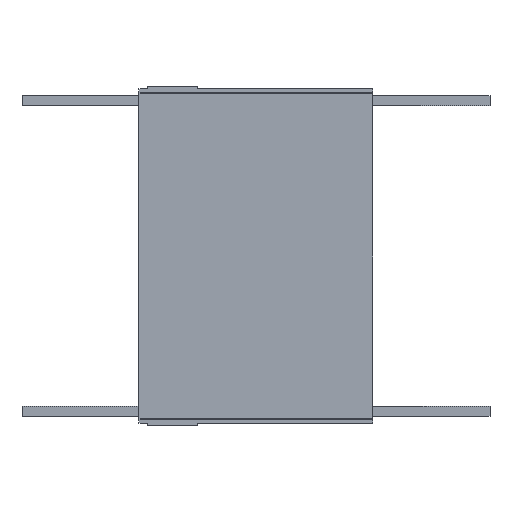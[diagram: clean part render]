
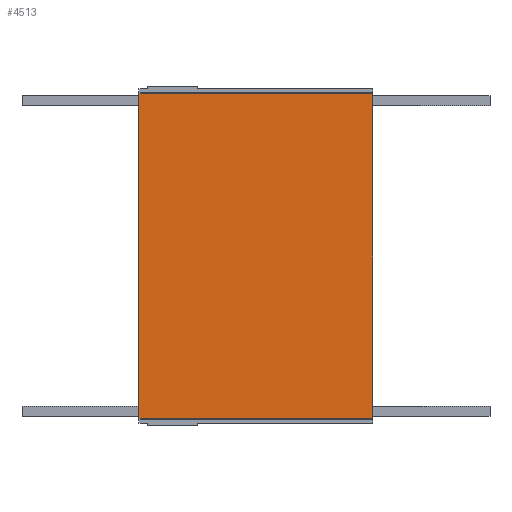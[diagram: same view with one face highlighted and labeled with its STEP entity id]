
A CAD part, front view. The second image highlights one B-rep face of the part: STEP entity #4513.
In plain terms, the highlighted planar face has unit normal (0, -1, 0).
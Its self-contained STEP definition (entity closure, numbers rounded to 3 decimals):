
#29 = EDGE_CURVE ( 'NONE', #573, #217, #4093, .T. ) ;
#217 = VERTEX_POINT ( 'NONE', #4082 ) ;
#454 = EDGE_CURVE ( 'Edge12', #3383, #573, #2351, .T. ) ;
#573 = VERTEX_POINT ( 'NONE', #4626 ) ;
#641 = LINE ( 'NONE', #2774, #4326 ) ;
#968 = ORIENTED_EDGE ( 'NONE', *, *, #454, .F. ) ;
#1075 = CARTESIAN_POINT ( 'NONE',  ( 70., -42., -97. ) ) ;
#1084 = EDGE_CURVE ( 'NONE', #2440, #217, #641, .T. ) ;
#1089 = DIRECTION ( 'NONE',  ( 0., 1., 0. ) ) ;
#1129 = CARTESIAN_POINT ( 'NONE',  ( -70., -42., 97. ) ) ;
#1164 = DIRECTION ( 'NONE',  ( 0., 0., -1. ) ) ;
#1675 = ORIENTED_EDGE ( 'NONE', *, *, #4872, .T. ) ;
#2120 = CARTESIAN_POINT ( 'NONE',  ( 70., -42., 97. ) ) ;
#2153 = LINE ( 'NONE', #3720, #2678 ) ;
#2351 = LINE ( 'NONE', #3439, #4453 ) ;
#2405 = DIRECTION ( 'NONE',  ( 0., 0., -1. ) ) ;
#2440 = VERTEX_POINT ( 'NONE', #1129 ) ;
#2678 = VECTOR ( 'NONE', #4670, 1000. ) ;
#2774 = CARTESIAN_POINT ( 'NONE',  ( -70., -42., -97. ) ) ;
#2804 = ORIENTED_EDGE ( 'NONE', *, *, #1084, .T. ) ;
#3138 = CARTESIAN_POINT ( 'NONE',  ( 70., -42., -97. ) ) ;
#3383 = VERTEX_POINT ( 'NONE', #2120 ) ;
#3416 = VECTOR ( 'NONE', #3941, 1000. ) ;
#3439 = CARTESIAN_POINT ( 'NONE',  ( 70., -42., -97. ) ) ;
#3462 = ORIENTED_EDGE ( 'NONE', *, *, #29, .F. ) ;
#3581 = FACE_OUTER_BOUND ( 'NONE', #3598, .T. ) ;
#3598 = EDGE_LOOP ( 'NONE', ( #1675, #2804, #3462, #968 ) ) ;
#3720 = CARTESIAN_POINT ( 'NONE',  ( 70., -42., 97. ) ) ;
#3732 = DIRECTION ( 'NONE',  ( 0., 0., 1. ) ) ;
#3775 = AXIS2_PLACEMENT_3D ( 'NONE', #1075, #1089, #3732 ) ;
#3941 = DIRECTION ( 'NONE',  ( -1., 0., 0. ) ) ;
#4082 = CARTESIAN_POINT ( 'NONE',  ( -70., -42., -97. ) ) ;
#4093 = LINE ( 'NONE', #3138, #3416 ) ;
#4326 = VECTOR ( 'NONE', #2405, 1000. ) ;
#4453 = VECTOR ( 'NONE', #1164, 1000. ) ;
#4513 = ADVANCED_FACE ( 'NONE', ( #3581 ), #4549, .F. ) ;
#4549 = PLANE ( 'NONE',  #3775 ) ;
#4626 = CARTESIAN_POINT ( 'NONE',  ( 70., -42., -97. ) ) ;
#4670 = DIRECTION ( 'NONE',  ( -1., 0., 0. ) ) ;
#4872 = EDGE_CURVE ( 'NONE', #3383, #2440, #2153, .T. ) ;
